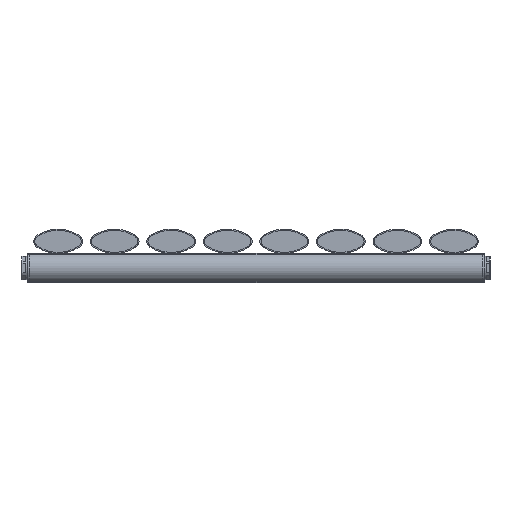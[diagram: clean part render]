
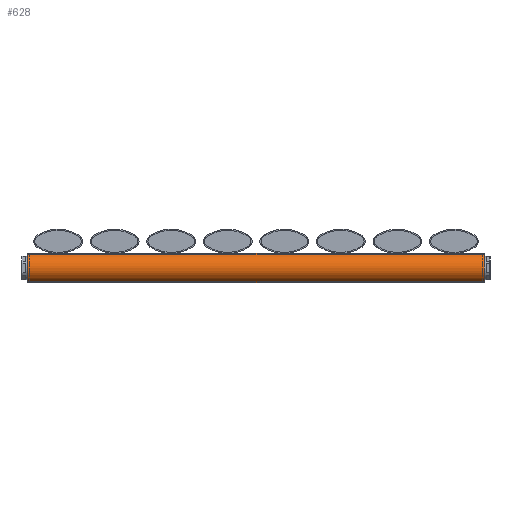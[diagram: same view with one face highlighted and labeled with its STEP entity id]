
A CAD part, left-side view. The second image highlights one B-rep face of the part: STEP entity #628.
In plain terms, the highlighted cylindrical face has radius 15 mm (diameter 30 mm), a full revolution.
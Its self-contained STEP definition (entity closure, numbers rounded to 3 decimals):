
#192=FACE_BOUND('',#246,.T.);
#207=FACE_OUTER_BOUND('',#245,.T.);
#245=EDGE_LOOP('',(#464));
#246=EDGE_LOOP('',(#465));
#297=CIRCLE('',#711,15.);
#298=CIRCLE('',#712,15.);
#334=VERTEX_POINT('',#1036);
#335=VERTEX_POINT('',#1038);
#389=EDGE_CURVE('',#334,#334,#297,.T.);
#390=EDGE_CURVE('',#335,#335,#298,.T.);
#464=ORIENTED_EDGE('',*,*,#389,.F.);
#465=ORIENTED_EDGE('',*,*,#390,.F.);
#613=CYLINDRICAL_SURFACE('',#710,15.);
#628=ADVANCED_FACE('',(#207,#192),#613,.T.);
#710=AXIS2_PLACEMENT_3D('',#1035,#812,#813);
#711=AXIS2_PLACEMENT_3D('',#1037,#814,#815);
#712=AXIS2_PLACEMENT_3D('',#1039,#816,#817);
#812=DIRECTION('center_axis',(0.,0.,1.));
#813=DIRECTION('ref_axis',(-1.,0.,0.));
#814=DIRECTION('center_axis',(0.,0.,1.));
#815=DIRECTION('ref_axis',(-1.,0.,0.));
#816=DIRECTION('center_axis',(0.,0.,-1.));
#817=DIRECTION('ref_axis',(-1.,0.,0.));
#1035=CARTESIAN_POINT('Origin',(0.,-15.,0.));
#1036=CARTESIAN_POINT('',(15.,-15.,468.));
#1037=CARTESIAN_POINT('Origin',(0.,-15.,468.));
#1038=CARTESIAN_POINT('',(15.,-15.,0.));
#1039=CARTESIAN_POINT('Origin',(0.,-15.,0.));
